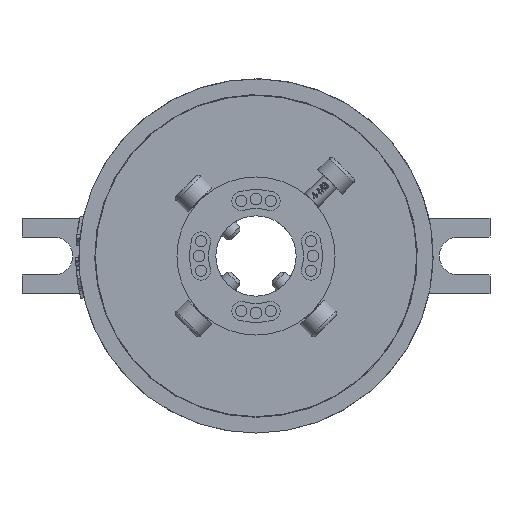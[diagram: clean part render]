
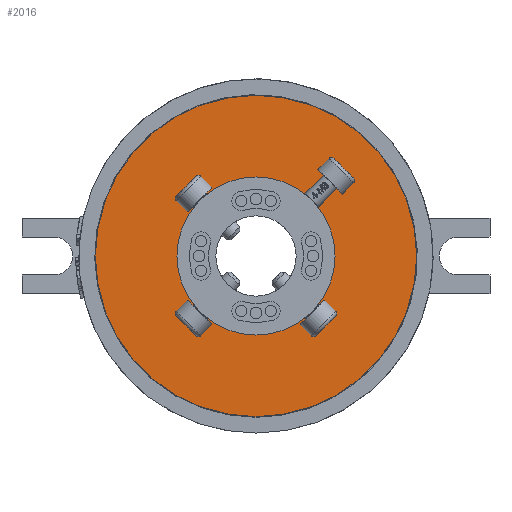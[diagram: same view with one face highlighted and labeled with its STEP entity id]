
A CAD part, left-side view. The second image highlights one B-rep face of the part: STEP entity #2016.
In plain terms, the highlighted planar face has unit normal (-1, 0, 0).
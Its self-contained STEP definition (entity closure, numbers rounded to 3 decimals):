
#109=FACE_BOUND('',#5101,.T.);
#110=FACE_BOUND('',#5102,.T.);
#548=CIRCLE('',#17374,12.5);
#549=CIRCLE('',#17375,25.4);
#987=PLANE('',#17376);
#2016=ADVANCED_FACE('',(#109,#110),#987,.T.);
#5101=EDGE_LOOP('',(#8003));
#5102=EDGE_LOOP('',(#8004));
#8003=ORIENTED_EDGE('',*,*,#13980,.F.);
#8004=ORIENTED_EDGE('',*,*,#13981,.F.);
#11727=VERTEX_POINT('',#32880);
#11728=VERTEX_POINT('',#32882);
#13980=EDGE_CURVE('',#11727,#11727,#548,.T.);
#13981=EDGE_CURVE('',#11728,#11728,#549,.T.);
#17374=AXIS2_PLACEMENT_3D('',#32879,#19093,#19094);
#17375=AXIS2_PLACEMENT_3D('',#32881,#19095,#19096);
#17376=AXIS2_PLACEMENT_3D('',#32883,#19097,#19098);
#19093=DIRECTION('',(-1.,0.,0.));
#19094=DIRECTION('',(0.,0.,1.));
#19095=DIRECTION('',(1.,0.,0.));
#19096=DIRECTION('',(0.,0.,1.));
#19097=DIRECTION('',(-1.,0.,0.));
#19098=DIRECTION('',(0.,0.,1.));
#32879=CARTESIAN_POINT('',(7.,0.,0.));
#32880=CARTESIAN_POINT('',(7.,0.,12.5));
#32881=CARTESIAN_POINT('',(7.,0.,0.));
#32882=CARTESIAN_POINT('',(7.,0.,25.4));
#32883=CARTESIAN_POINT('',(7.,0.,0.));
